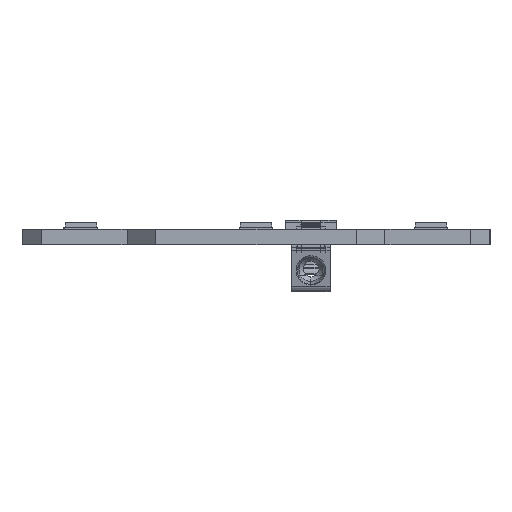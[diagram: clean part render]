
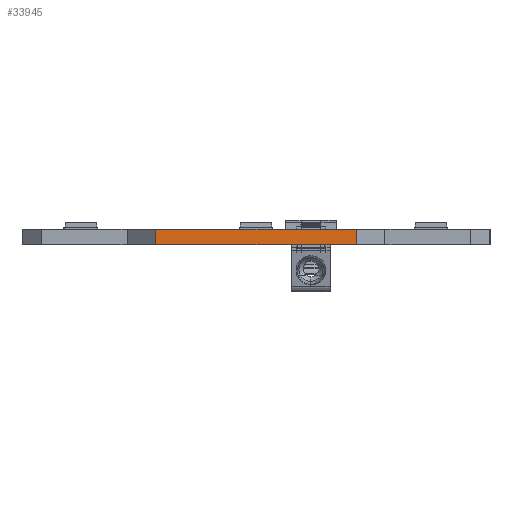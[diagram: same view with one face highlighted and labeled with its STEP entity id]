
A CAD part, left-side view. The second image highlights one B-rep face of the part: STEP entity #33945.
In plain terms, the highlighted planar face has unit normal (-1, 0, 0).
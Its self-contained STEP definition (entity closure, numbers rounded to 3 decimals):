
#1353=DIRECTION('',(0.,-1.,0.));
#1354=VECTOR('',#1353,21.);
#1355=CARTESIAN_POINT('',(-246.5,10.5,0.));
#1356=LINE('',#1355,#1354);
#12243=DIRECTION('',(0.,-1.,0.));
#12244=VECTOR('',#12243,21.);
#12245=CARTESIAN_POINT('',(-246.5,10.5,-1.6));
#12246=LINE('',#12245,#12244);
#13695=DIRECTION('',(0.,0.,-1.));
#13696=VECTOR('',#13695,1.6);
#13697=CARTESIAN_POINT('',(-246.5,10.5,0.));
#13698=LINE('',#13697,#13696);
#13699=DIRECTION('',(0.,0.,-1.));
#13700=VECTOR('',#13699,1.6);
#13701=CARTESIAN_POINT('',(-246.5,-10.5,0.));
#13702=LINE('',#13701,#13700);
#15275=CARTESIAN_POINT('',(-246.5,10.5,0.));
#15276=VERTEX_POINT('',#15275);
#15277=CARTESIAN_POINT('',(-246.5,-10.5,0.));
#15278=VERTEX_POINT('',#15277);
#15999=CARTESIAN_POINT('',(-246.5,10.5,-1.6));
#16000=VERTEX_POINT('',#15999);
#16001=CARTESIAN_POINT('',(-246.5,-10.5,-1.6));
#16002=VERTEX_POINT('',#16001);
#33933=CARTESIAN_POINT('',(-246.5,10.5,0.));
#33934=DIRECTION('',(-1.,0.,0.));
#33935=DIRECTION('',(0.,-1.,0.));
#33936=AXIS2_PLACEMENT_3D('',#33933,#33934,#33935);
#33937=PLANE('',#33936);
#33938=ORIENTED_EDGE('',*,*,#24248,.T.);
#33940=ORIENTED_EDGE('',*,*,#33939,.T.);
#33941=ORIENTED_EDGE('',*,*,#33034,.F.);
#33942=ORIENTED_EDGE('',*,*,#33919,.F.);
#33943=EDGE_LOOP('',(#33938,#33940,#33941,#33942));
#33944=FACE_OUTER_BOUND('',#33943,.F.);
#24248=EDGE_CURVE('',#15276,#15278,#1356,.T.);
#33034=EDGE_CURVE('',#16000,#16002,#12246,.T.);
#33919=EDGE_CURVE('',#15276,#16000,#13698,.T.);
#33939=EDGE_CURVE('',#15278,#16002,#13702,.T.);
#33945=ADVANCED_FACE('',(#33944),#33937,.T.);
